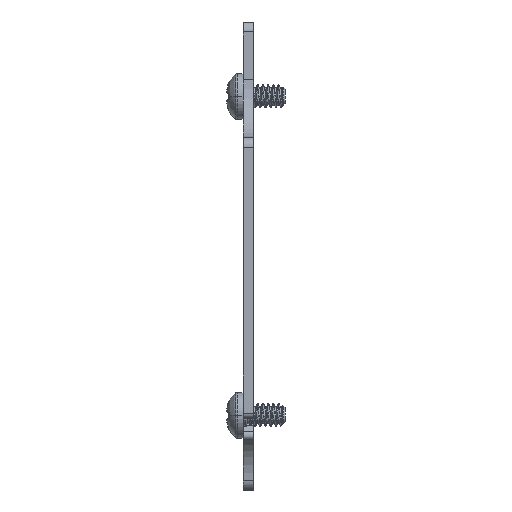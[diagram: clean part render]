
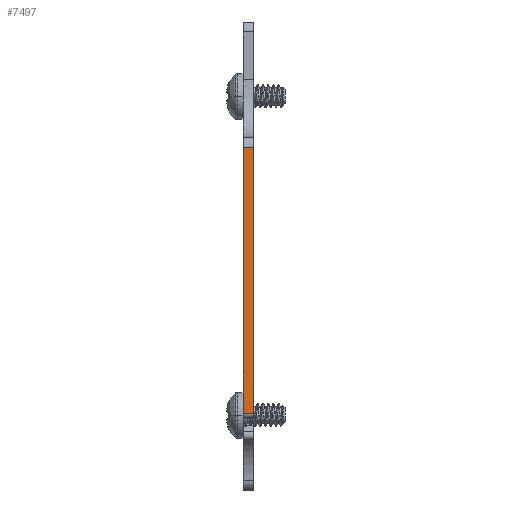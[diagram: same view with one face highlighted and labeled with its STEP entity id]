
A CAD part, left-side view. The second image highlights one B-rep face of the part: STEP entity #7497.
In plain terms, the highlighted planar face has unit normal (-1, 0, 0).
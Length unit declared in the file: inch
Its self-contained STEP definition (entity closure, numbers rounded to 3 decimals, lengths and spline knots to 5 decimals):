
#261 = VERTEX_POINT ( 'NONE', #3976 ) ;
#340 = EDGE_CURVE ( 'NONE', #2548, #6287, #5809, .T. ) ;
#447 = CARTESIAN_POINT ( 'NONE',  ( -3.25787, 0.06, -0.93177 ) ) ;
#537 = EDGE_LOOP ( 'NONE', ( #7700, #3475, #14730, #1321 ) ) ;
#1233 = EDGE_CURVE ( 'NONE', #2548, #261, #1949, .T. ) ;
#1321 = ORIENTED_EDGE ( 'NONE', *, *, #340, .T. ) ;
#1449 = EDGE_CURVE ( 'NONE', #261, #4437, #12598, .T. ) ;
#1687 = FACE_OUTER_BOUND ( 'NONE', #537, .T. ) ;
#1949 = LINE ( 'NONE', #7347, #4998 ) ;
#2139 = CARTESIAN_POINT ( 'NONE',  ( -3.25787, 0., -0.93177 ) ) ;
#2548 = VERTEX_POINT ( 'NONE', #7682 ) ;
#3475 = ORIENTED_EDGE ( 'NONE', *, *, #1449, .F. ) ;
#3633 = EDGE_CURVE ( 'NONE', #6287, #4437, #14214, .T. ) ;
#3976 = CARTESIAN_POINT ( 'NONE',  ( -3.25787, 0.06, 0.6444 ) ) ;
#4437 = VERTEX_POINT ( 'NONE', #9361 ) ;
#4998 = VECTOR ( 'NONE', #14645, 39.37008 ) ;
#5759 = DIRECTION ( 'NONE',  ( 0., 0., -1. ) ) ;
#5809 = LINE ( 'NONE', #8223, #12386 ) ;
#6083 = DIRECTION ( 'NONE',  ( 0., -1., 0. ) ) ;
#6287 = VERTEX_POINT ( 'NONE', #12461 ) ;
#6923 = VECTOR ( 'NONE', #12892, 39.37008 ) ;
#7079 = DIRECTION ( 'NONE',  ( 1., 0., 0. ) ) ;
#7347 = CARTESIAN_POINT ( 'NONE',  ( -3.25787, 0.06, -0.93177 ) ) ;
#7497 = ADVANCED_FACE ( 'NONE', ( #1687 ), #11142, .F. ) ;
#7682 = CARTESIAN_POINT ( 'NONE',  ( -3.25787, 0.06, -0.93177 ) ) ;
#7700 = ORIENTED_EDGE ( 'NONE', *, *, #3633, .T. ) ;
#8114 = VECTOR ( 'NONE', #6083, 39.37008 ) ;
#8223 = CARTESIAN_POINT ( 'NONE',  ( -3.25787, 0.06, -0.93177 ) ) ;
#8739 = CARTESIAN_POINT ( 'NONE',  ( -3.25787, 0.06, 0.6444 ) ) ;
#9361 = CARTESIAN_POINT ( 'NONE',  ( -3.25787, 0., 0.6444 ) ) ;
#10937 = DIRECTION ( 'NONE',  ( 0., -1., 0. ) ) ;
#11142 = PLANE ( 'NONE',  #17309 ) ;
#12386 = VECTOR ( 'NONE', #10937, 39.37008 ) ;
#12461 = CARTESIAN_POINT ( 'NONE',  ( -3.25787, 0., -0.93177 ) ) ;
#12598 = LINE ( 'NONE', #8739, #8114 ) ;
#12892 = DIRECTION ( 'NONE',  ( 0., 0., 1. ) ) ;
#14214 = LINE ( 'NONE', #2139, #6923 ) ;
#14645 = DIRECTION ( 'NONE',  ( 0., 0., 1. ) ) ;
#14730 = ORIENTED_EDGE ( 'NONE', *, *, #1233, .F. ) ;
#17309 = AXIS2_PLACEMENT_3D ( 'NONE', #447, #7079, #5759 ) ;
